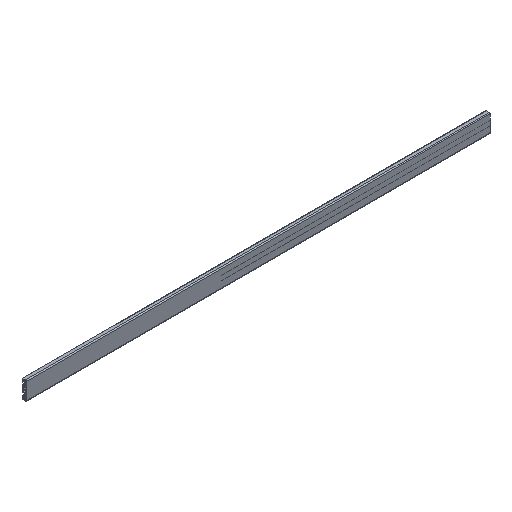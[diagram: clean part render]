
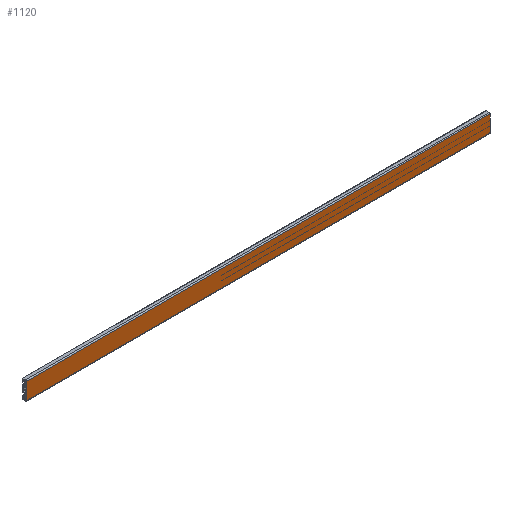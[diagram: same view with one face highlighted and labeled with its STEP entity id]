
A CAD part, isometric view. The second image highlights one B-rep face of the part: STEP entity #1120.
In plain terms, the highlighted planar face has unit normal (0, -1, 0).
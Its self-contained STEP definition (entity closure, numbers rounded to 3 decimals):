
#15 = LINE ( 'NONE', #679, #249 ) ;
#61 = DIRECTION ( 'NONE',  ( -1., 0., 0. ) ) ;
#111 = DIRECTION ( 'NONE',  ( -1., 0., 0. ) ) ;
#114 = CARTESIAN_POINT ( 'NONE',  ( 1000., -5., -18. ) ) ;
#194 = ORIENTED_EDGE ( 'NONE', *, *, #1452, .T. ) ;
#249 = VECTOR ( 'NONE', #1074, 1000. ) ;
#298 = VERTEX_POINT ( 'NONE', #2092 ) ;
#319 = AXIS2_PLACEMENT_3D ( 'NONE', #114, #815, #1521 ) ;
#434 = VECTOR ( 'NONE', #606, 1000. ) ;
#466 = ORIENTED_EDGE ( 'NONE', *, *, #1960, .F. ) ;
#477 = LINE ( 'NONE', #502, #531 ) ;
#502 = CARTESIAN_POINT ( 'NONE',  ( 1000., -5., -18. ) ) ;
#531 = VECTOR ( 'NONE', #61, 1000. ) ;
#596 = LINE ( 'NONE', #929, #434 ) ;
#606 = DIRECTION ( 'NONE',  ( 0., 0., -1. ) ) ;
#608 = VERTEX_POINT ( 'NONE', #2127 ) ;
#679 = CARTESIAN_POINT ( 'NONE',  ( 0., -5., -18. ) ) ;
#755 = CARTESIAN_POINT ( 'NONE',  ( 1000., -5., 18. ) ) ;
#815 = DIRECTION ( 'NONE',  ( 0., 1., 0. ) ) ;
#929 = CARTESIAN_POINT ( 'NONE',  ( 1000., -5., -18. ) ) ;
#937 = ORIENTED_EDGE ( 'NONE', *, *, #938, .F. ) ;
#938 = EDGE_CURVE ( 'NONE', #950, #298, #477, .T. ) ;
#950 = VERTEX_POINT ( 'NONE', #2004 ) ;
#1074 = DIRECTION ( 'NONE',  ( 0., 0., -1. ) ) ;
#1108 = CARTESIAN_POINT ( 'NONE',  ( 1000., -5., 18. ) ) ;
#1120 = ADVANCED_FACE ( 'NONE', ( #1731 ), #1543, .F. ) ;
#1152 = VERTEX_POINT ( 'NONE', #755 ) ;
#1410 = EDGE_CURVE ( 'NONE', #608, #298, #15, .T. ) ;
#1452 = EDGE_CURVE ( 'NONE', #1152, #608, #2039, .T. ) ;
#1456 = ORIENTED_EDGE ( 'NONE', *, *, #1410, .T. ) ;
#1489 = EDGE_LOOP ( 'NONE', ( #1456, #937, #466, #194 ) ) ;
#1521 = DIRECTION ( 'NONE',  ( 0., 0., 1. ) ) ;
#1543 = PLANE ( 'NONE',  #319 ) ;
#1731 = FACE_OUTER_BOUND ( 'NONE', #1489, .T. ) ;
#1877 = VECTOR ( 'NONE', #111, 1000. ) ;
#1960 = EDGE_CURVE ( 'NONE', #1152, #950, #596, .T. ) ;
#2004 = CARTESIAN_POINT ( 'NONE',  ( 1000., -5., -18. ) ) ;
#2039 = LINE ( 'NONE', #1108, #1877 ) ;
#2092 = CARTESIAN_POINT ( 'NONE',  ( 0., -5., -18. ) ) ;
#2127 = CARTESIAN_POINT ( 'NONE',  ( 0., -5., 18. ) ) ;
